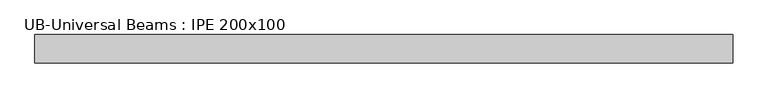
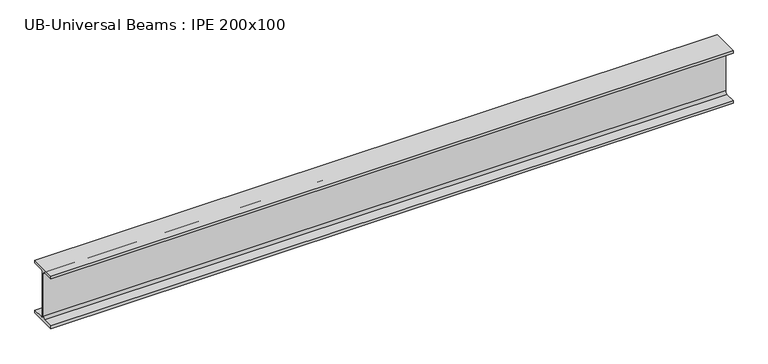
"""IFC4 building model written with IfcOpenShell, lengths in millimetres: beam geometry, UB-Universal Beams : IPE 200x100."""

import ifcopenshell
import ifcopenshell.guid

model = None  # the IFC model being written
_history = None  # IfcOwnerHistory: only IFC2X3 demands one
_inside = {}  # id of a spatial element -> (the spatial element, [elements in it])
_under = {}  # id of a project, library or spatial element -> (it, [spatial elements below it])
_declared = {}  # id of a project -> (the project, [libraries it declares])
_typed = {}  # id of a type object -> (the type object, [elements of that type])
_made_of = {}  # id of a material, layer set ... -> (it, [elements and type objects made of it])


def new_model(schema):
    """Start an empty IFC model of exactly this schema.

    Asked for "IFC4X3", IfcOpenShell would pick the latest addendum, in which some entities
    have other attributes; the version numbers below select the first issue.
    IFC2X3 requires an IfcOwnerHistory on every rooted entity: one is made here for all.
    """
    global model, _history
    if schema == "IFC4X3":
        model = ifcopenshell.file(schema_version=(4, 3, 0, 0))
    else:
        model = ifcopenshell.file(schema=schema)
    _inside.clear()
    _under.clear()
    _declared.clear()
    _typed.clear()
    _made_of.clear()
    _history = None
    if model.schema == "IFC2X3":
        org = make("IfcOrganization", Name="unknown")
        user = make(
            "IfcPersonAndOrganization",
            ThePerson=make("IfcPerson", FamilyName="unknown"),
            TheOrganization=org,
        )
        app = make(
            "IfcApplication",
            ApplicationDeveloper=org,
            Version="unknown",
            ApplicationFullName="unknown",
            ApplicationIdentifier="unknown",
        )
        _history = make(
            "IfcOwnerHistory",
            OwningUser=user,
            OwningApplication=app,
            ChangeAction="ADDED",
            CreationDate=0,
        )
    return model


def make(cls, **values):
    """One entity of the class cls with the attributes given. An attribute that is None is left unset."""
    return model.create_entity(
        cls, **{name: value for name, value in values.items() if value is not None}
    )


def rooted(cls, **values):
    """An entity with a GlobalId (a new one), such as an element, a storey or a relation."""
    return make(cls, GlobalId=ifcopenshell.guid.new(), OwnerHistory=_history, **values)


def si_unit(unit_type, name, prefix=None):
    """IfcSIUnit, for example si_unit("LENGTHUNIT", "METRE", prefix="MILLI")."""
    return make("IfcSIUnit", UnitType=unit_type, Prefix=prefix, Name=name)


def assignment(units):
    """IfcUnitAssignment: the units of a project."""
    return None if units is None else make("IfcUnitAssignment", Units=units)


def point(xyz):
    """IfcCartesianPoint."""
    return None if xyz is None else make("IfcCartesianPoint", Coordinates=xyz)


def direction(xyz):
    """IfcDirection."""
    return None if xyz is None else make("IfcDirection", DirectionRatios=xyz)


def frame(location, z_axis=None, x_axis=None):
    """IfcAxis2Placement3D, a coordinate frame: its origin and axes. An axis left out is left unset."""
    return make(
        "IfcAxis2Placement3D",
        Location=point(location),
        Axis=direction(z_axis),
        RefDirection=direction(x_axis),
    )


def frame_2d(location, x_axis=None):
    """IfcAxis2Placement2D, a coordinate frame in the plane: its origin and x axis."""
    return make(
        "IfcAxis2Placement2D", Location=point(location), RefDirection=direction(x_axis)
    )


def origin():
    """The frame at (0, 0, 0) with its axes left unset."""
    return frame((0.0, 0.0, 0.0))


def place(relative_to, where):
    """IfcLocalPlacement: puts the frame where relative to a parent placement (None: the world)."""
    return make(
        "IfcLocalPlacement", PlacementRelTo=relative_to, RelativePlacement=where
    )


def context(
    kind, dimensions, precision=None, world=None, true_north=None, identifier=None
):
    """IfcGeometricRepresentationContext, for example the 3D "Model" context."""
    return make(
        "IfcGeometricRepresentationContext",
        ContextIdentifier=identifier,
        ContextType=kind,
        CoordinateSpaceDimension=dimensions,
        Precision=precision,
        WorldCoordinateSystem=world,
        TrueNorth=true_north,
    )


def project(units=None, contexts=None):
    """IfcProject with its units and contexts."""
    return rooted(
        "IfcProject",
        Name="project",
        RepresentationContexts=contexts,
        UnitsInContext=assignment(units),
    )


def spatial(cls, under=None, at=None, **own):
    """A site, building, storey or space (cls), placed at a placement, below another one or the project."""
    s = rooted(cls, ObjectPlacement=at, **own)
    if under is not None:
        _under.setdefault(under.id(), (under, []))[1].append(s)
    return s


def polyline(points):
    """IfcPolyline through the points."""
    return make("IfcPolyline", Points=[point(p) for p in points])


def circle_curve(where, radius):
    """IfcCircle in the frame where."""
    return make("IfcCircle", Position=where, Radius=radius)


def trimmed(basis, trim1, trim2, sense, master):
    """IfcTrimmedCurve: the piece of a basis curve between two trims."""
    return make(
        "IfcTrimmedCurve",
        BasisCurve=basis,
        Trim1=trim1,
        Trim2=trim2,
        SenseAgreement=sense,
        MasterRepresentation=master,
    )


def segment(curve, same_sense, transition):
    """IfcCompositeCurveSegment."""
    return make(
        "IfcCompositeCurveSegment",
        Transition=transition,
        SameSense=same_sense,
        ParentCurve=curve,
    )


def composite_curve(segments, self_intersect=None):
    """IfcCompositeCurve: segments joined end to end."""
    return make("IfcCompositeCurve", Segments=segments, SelfIntersect=self_intersect)


def outline(outer, holes=None, kind="AREA"):
    """IfcArbitraryClosedProfileDef: a profile drawn as a closed curve; with holes, ...WithVoids."""
    if holes is None:
        return make("IfcArbitraryClosedProfileDef", ProfileType=kind, OuterCurve=outer)
    return make(
        "IfcArbitraryProfileDefWithVoids",
        ProfileType=kind,
        OuterCurve=outer,
        InnerCurves=holes,
    )


def extrude(swept, where, along, depth):
    """IfcExtrudedAreaSolid: the profile swept, set in the frame where, extruded along a direction by depth."""
    return make(
        "IfcExtrudedAreaSolid",
        SweptArea=swept,
        Position=where,
        ExtrudedDirection=direction(along),
        Depth=depth,
    )


def shape(context_of_items, identifier, shape_type, items):
    """IfcShapeRepresentation: the items that make up one representation, for example the "Body"."""
    return make(
        "IfcShapeRepresentation",
        ContextOfItems=context_of_items,
        RepresentationIdentifier=identifier,
        RepresentationType=shape_type,
        Items=items,
    )


def source(mapping_origin, context_of_items, identifier, shape_type, items):
    """IfcRepresentationMap: a shape defined once, which mapped items show again and again."""
    return make(
        "IfcRepresentationMap",
        MappingOrigin=mapping_origin,
        MappedRepresentation=shape(context_of_items, identifier, shape_type, items),
    )


def transform(
    local_origin,
    x_axis=None,
    y_axis=None,
    z_axis=None,
    scale=None,
    scale2=None,
    scale3=None,
    uniform=True,
):
    """IfcCartesianTransformationOperator3D, or its non-uniform kind. x_axis, y_axis, z_axis: its Axis1, 2, 3."""
    if uniform:
        return make(
            "IfcCartesianTransformationOperator3D",
            Axis1=direction(x_axis),
            Axis2=direction(y_axis),
            LocalOrigin=point(local_origin),
            Scale=scale,
            Axis3=direction(z_axis),
        )
    return make(
        "IfcCartesianTransformationOperator3DnonUniform",
        Axis1=direction(x_axis),
        Axis2=direction(y_axis),
        LocalOrigin=point(local_origin),
        Scale=scale,
        Axis3=direction(z_axis),
        Scale2=scale2,
        Scale3=scale3,
    )


def mapped(mapping_source, mapping_target):
    """IfcMappedItem: shows the shape of a source again, moved by a transform."""
    return make(
        "IfcMappedItem", MappingSource=mapping_source, MappingTarget=mapping_target
    )


def made_of(thing, what):
    """Note that an element or type object is made of a material, layer set ...; save() writes the relation."""
    if what is not None:
        _made_of.setdefault(what.id(), (what, []))[1].append(thing)
    return thing


def element(
    cls,
    number,
    at=None,
    inside=None,
    cuts=None,
    type_object=None,
    material=None,
    context=None,
    identifier="Body",
    shape_type=None,
    held_by="IfcProductDefinitionShape",
    body=None,
    shapes=None,
    **own,
):
    """One element of the class cls, such as IfcWall. Its Tag is "e" and its number.

    at: its placement. inside: the storey or other place that contains it. cuts: it is an
    opening in that element (IfcRelVoidsElement). A single representation is given by context,
    identifier, shape_type and body (its items); several are given by shapes. held_by: the class
    of the entity that holds the representations. save() writes the other relations.
    """
    e = rooted(cls, Tag="e%d" % number, ObjectPlacement=at, **own)
    if body is not None:
        shapes = [shape(context, identifier, shape_type, body)]
    if shapes is not None:
        e.Representation = make(held_by, Representations=shapes)
    if inside is not None:
        _inside.setdefault(inside.id(), (inside, []))[1].append(e)
    if cuts is not None:
        rooted(
            "IfcRelVoidsElement", RelatingBuildingElement=cuts, RelatedOpeningElement=e
        )
    if type_object is not None:
        _typed.setdefault(type_object.id(), (type_object, []))[1].append(e)
    return made_of(e, material)


def aggregate(whole, parts):
    """IfcRelAggregates: a whole, such as a stair, and the parts it consists of."""
    return rooted("IfcRelAggregates", RelatingObject=whole, RelatedObjects=parts)


def save(model, path):
    """Write the relations noted so far, then the file.

    IfcRelAggregates (storeys below a building ...), IfcRelContainedInSpatialStructure (elements
    in a storey), IfcRelDefinesByType, IfcRelAssociatesMaterial and IfcRelDeclares: one each for
    every whole, place, type object, material and project.
    """
    for whole, parts in _under.values():
        aggregate(whole, parts)
    for where, things in _inside.values():
        rooted(
            "IfcRelContainedInSpatialStructure",
            RelatedElements=things,
            RelatingStructure=where,
        )
    for kind, things in _typed.values():
        rooted("IfcRelDefinesByType", RelatedObjects=things, RelatingType=kind)
    for what, things in _made_of.values():
        rooted("IfcRelAssociatesMaterial", RelatedObjects=things, RelatingMaterial=what)
    for by, libraries in _declared.values():
        rooted("IfcRelDeclares", RelatingContext=by, RelatedDefinitions=libraries)
    model.write(path)


def ub_universal_beams_ipe_200x100_8a704f57(model_context):
    return source(origin(), model_context, "Body", "SweptSolid", [
        extrude(outline(composite_curve([segment(polyline([(-50.0, -89.8), (-11.9, -89.8)]), True, "CONTINUOUS"), segment(trimmed(circle_curve(frame_2d((-11.9, -80.9)), 8.9), [point((-11.9, -89.8))], [point((-3.0, -80.9))], True, "CARTESIAN"), True, "CONTINUOUS"), segment(polyline([(-3.0, -80.9), (-3.0, 80.9)]), True, "CONTINUOUS"), segment(trimmed(circle_curve(frame_2d((-11.9, 80.9)), 8.9), [point((-3.0, 80.9))], [point((-11.9, 89.8))], True, "CARTESIAN"), True, "CONTINUOUS"), segment(polyline([(-11.9, 89.8), (-50.0, 89.8), (-50.0, 100.0), (50.0, 100.0), (50.0, 89.8), (11.9, 89.8)]), True, "CONTINUOUS"), segment(trimmed(circle_curve(frame_2d((11.9, 80.9)), 8.9), [point((11.9, 89.8))], [point((3.0, 80.9))], True, "CARTESIAN"), True, "CONTINUOUS"), segment(polyline([(3.0, 80.9), (3.0, -80.9)]), True, "CONTINUOUS"), segment(trimmed(circle_curve(frame_2d((11.9, -80.9)), 8.9), [point((3.0, -80.9))], [point((11.9, -89.8))], True, "CARTESIAN"), True, "CONTINUOUS"), segment(polyline([(11.9, -89.8), (50.0, -89.8), (50.0, -100.0), (-50.0, -100.0), (-50.0, -89.8)]), True, "CONTINUOUS")], self_intersect=False)), frame((-1030.15, 0.0, 0.0), z_axis=(1.0, 0.0, 0.0), x_axis=(0.0, 1.0, 0.0)), (0.0, 0.0, 1.0), 2460.3),
    ])


if __name__ == "__main__":
    model = new_model("IFC4")
    model_context = context("Model", 3, world=origin())
    ifc_project = project(units=[si_unit("LENGTHUNIT", "METRE", prefix="MILLI")], contexts=[model_context])
    site = spatial("IfcSite", under=ifc_project)
    building = spatial("IfcBuilding", under=site)
    placement = place(None, origin())
    ub_universal_beams_ipe_200x100_shape = ub_universal_beams_ipe_200x100_8a704f57(model_context)
    element("IfcBeam", 1, ObjectType="UB-Universal Beams : IPE 200x100", at=placement, inside=building, context=model_context, shape_type="MappedRepresentation", body=[
        mapped(ub_universal_beams_ipe_200x100_shape, transform((0.0, 0.0, 0.0), x_axis=(1.0, 0.0, 0.0), y_axis=(0.0, 1.0, 0.0), z_axis=(0.0, 0.0, 1.0))),
    ])
    save(model, "model.ifc")
